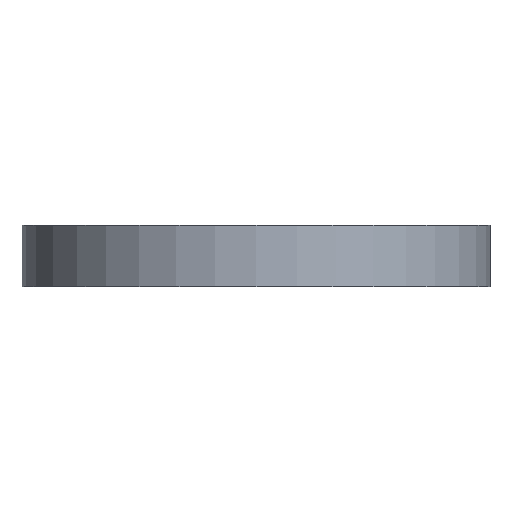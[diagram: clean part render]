
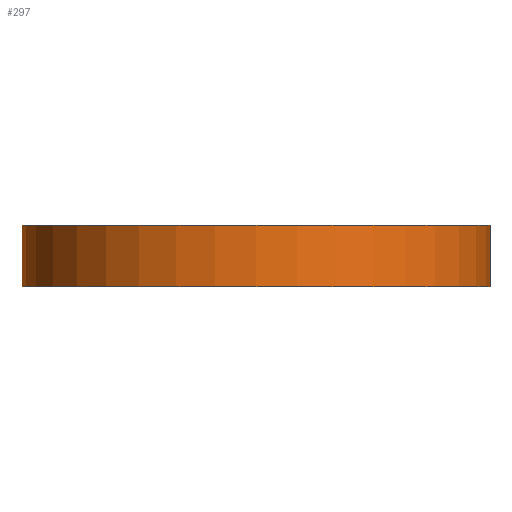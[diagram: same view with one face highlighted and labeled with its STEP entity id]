
A CAD part, front view. The second image highlights one B-rep face of the part: STEP entity #297.
In plain terms, the highlighted cylindrical face has radius 28.5 mm (diameter 57 mm), a partial arc.
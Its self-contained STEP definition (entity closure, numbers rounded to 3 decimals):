
#15 = VERTEX_POINT ( 'NONE', #947 ) ;
#43 = DIRECTION ( 'NONE',  ( 0., 0., 1. ) ) ;
#118 = DIRECTION ( 'NONE',  ( 1., 0., 0. ) ) ;
#144 = CARTESIAN_POINT ( 'NONE',  ( 0., 0., 7.5 ) ) ;
#174 = EDGE_LOOP ( 'NONE', ( #489, #749, #920, #563 ) ) ;
#180 = FACE_OUTER_BOUND ( 'NONE', #174, .T. ) ;
#193 = DIRECTION ( 'NONE',  ( 0., 0., -1. ) ) ;
#194 = CARTESIAN_POINT ( 'NONE',  ( 0., 0., 0. ) ) ;
#268 = CARTESIAN_POINT ( 'NONE',  ( 28.5, 0., 7.5 ) ) ;
#279 = CIRCLE ( 'NONE', #910, 28.5 ) ;
#293 = DIRECTION ( 'NONE',  ( 0., 0., -1. ) ) ;
#297 = ADVANCED_FACE ( 'NONE', ( #180 ), #555, .T. ) ;
#322 = LINE ( 'NONE', #896, #501 ) ;
#327 = AXIS2_PLACEMENT_3D ( 'NONE', #144, #821, #596 ) ;
#336 = CIRCLE ( 'NONE', #819, 28.5 ) ;
#375 = CARTESIAN_POINT ( 'NONE',  ( -28.5, 0., 7.5 ) ) ;
#414 = CARTESIAN_POINT ( 'NONE',  ( -28.5, 0., 7.5 ) ) ;
#462 = EDGE_CURVE ( 'NONE', #727, #578, #688, .T. ) ;
#473 = VECTOR ( 'NONE', #193, 1000. ) ;
#475 = DIRECTION ( 'NONE',  ( 1., 0., 0. ) ) ;
#489 = ORIENTED_EDGE ( 'NONE', *, *, #794, .F. ) ;
#501 = VECTOR ( 'NONE', #293, 1000. ) ;
#511 = EDGE_CURVE ( 'NONE', #727, #915, #279, .T. ) ;
#555 = CYLINDRICAL_SURFACE ( 'NONE', #327, 28.5 ) ;
#556 = CARTESIAN_POINT ( 'NONE',  ( 0., 0., 7.5 ) ) ;
#563 = ORIENTED_EDGE ( 'NONE', *, *, #943, .T. ) ;
#578 = VERTEX_POINT ( 'NONE', #778 ) ;
#596 = DIRECTION ( 'NONE',  ( -1., 0., 0. ) ) ;
#648 = DIRECTION ( 'NONE',  ( 0., 0., 1. ) ) ;
#688 = LINE ( 'NONE', #414, #473 ) ;
#727 = VERTEX_POINT ( 'NONE', #375 ) ;
#749 = ORIENTED_EDGE ( 'NONE', *, *, #511, .F. ) ;
#778 = CARTESIAN_POINT ( 'NONE',  ( -28.5, 0., 0. ) ) ;
#794 = EDGE_CURVE ( 'NONE', #915, #15, #322, .T. ) ;
#819 = AXIS2_PLACEMENT_3D ( 'NONE', #194, #648, #118 ) ;
#821 = DIRECTION ( 'NONE',  ( 0., 0., -1. ) ) ;
#896 = CARTESIAN_POINT ( 'NONE',  ( 28.5, 0., 7.5 ) ) ;
#910 = AXIS2_PLACEMENT_3D ( 'NONE', #556, #43, #475 ) ;
#915 = VERTEX_POINT ( 'NONE', #268 ) ;
#920 = ORIENTED_EDGE ( 'NONE', *, *, #462, .T. ) ;
#943 = EDGE_CURVE ( 'NONE', #578, #15, #336, .T. ) ;
#947 = CARTESIAN_POINT ( 'NONE',  ( 28.5, 0., 0. ) ) ;
